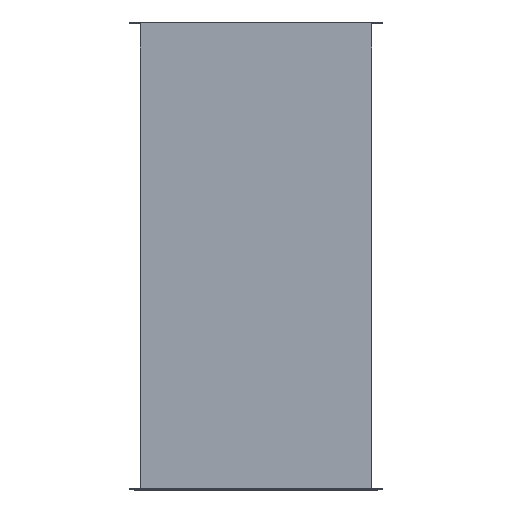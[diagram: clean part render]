
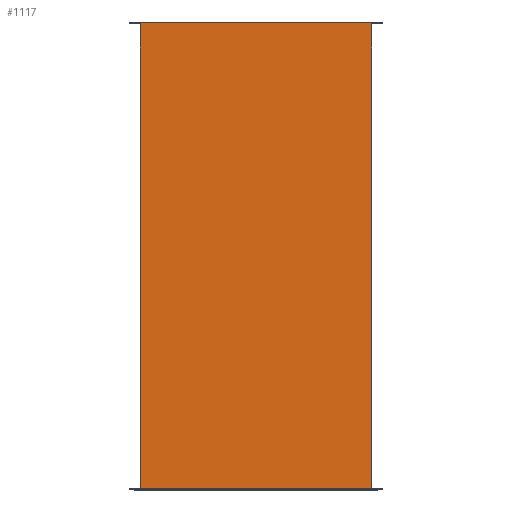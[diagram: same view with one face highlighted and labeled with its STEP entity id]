
A CAD part, top view. The second image highlights one B-rep face of the part: STEP entity #1117.
In plain terms, the highlighted planar face has unit normal (0, 0, 1).
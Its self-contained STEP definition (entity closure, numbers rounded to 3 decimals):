
#151=FACE_OUTER_BOUND('',#209,.T.);
#209=EDGE_LOOP('',(#833,#834,#835,#836));
#353=LINE('',#1679,#457);
#354=LINE('',#1681,#458);
#355=LINE('',#1683,#459);
#356=LINE('',#1684,#460);
#457=VECTOR('',#1353,10.);
#458=VECTOR('',#1354,10.);
#459=VECTOR('',#1355,10.);
#460=VECTOR('',#1356,10.);
#545=VERTEX_POINT('',#1677);
#546=VERTEX_POINT('',#1678);
#547=VERTEX_POINT('',#1680);
#548=VERTEX_POINT('',#1682);
#669=EDGE_CURVE('',#545,#546,#353,.T.);
#670=EDGE_CURVE('',#547,#546,#354,.T.);
#671=EDGE_CURVE('',#547,#548,#355,.T.);
#672=EDGE_CURVE('',#548,#545,#356,.F.);
#833=ORIENTED_EDGE('',*,*,#669,.T.);
#834=ORIENTED_EDGE('',*,*,#670,.F.);
#835=ORIENTED_EDGE('',*,*,#671,.T.);
#836=ORIENTED_EDGE('',*,*,#672,.T.);
#1081=PLANE('',#1183);
#1117=ADVANCED_FACE('',(#151),#1081,.T.);
#1183=AXIS2_PLACEMENT_3D('',#1676,#1351,#1352);
#1351=DIRECTION('center_axis',(0.,0.,1.));
#1352=DIRECTION('ref_axis',(1.,0.,0.));
#1353=DIRECTION('',(-1.,0.,0.));
#1354=DIRECTION('',(0.,1.,0.));
#1355=DIRECTION('',(1.,0.,0.));
#1356=DIRECTION('',(0.,-1.,0.));
#1676=CARTESIAN_POINT('Origin',(-245.,-500.,147.));
#1677=CARTESIAN_POINT('',(247.,498.,147.));
#1678=CARTESIAN_POINT('',(-247.,498.,147.));
#1679=CARTESIAN_POINT('',(-122.5,498.,147.));
#1680=CARTESIAN_POINT('',(-247.,-498.,147.));
#1681=CARTESIAN_POINT('',(-247.,-500.,147.));
#1682=CARTESIAN_POINT('',(247.,-498.,147.));
#1683=CARTESIAN_POINT('',(-122.5,-498.,147.));
#1684=CARTESIAN_POINT('',(247.,-500.,147.));
